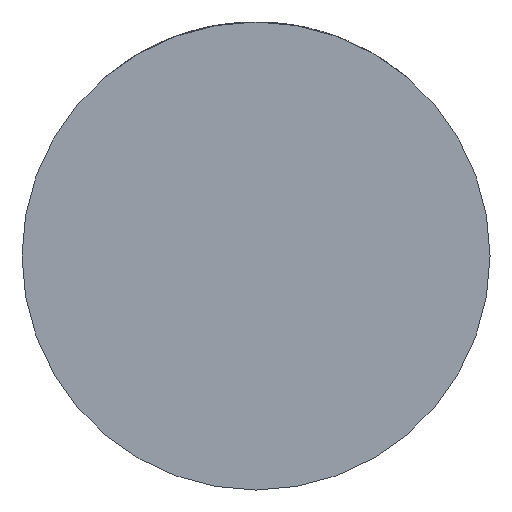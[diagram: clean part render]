
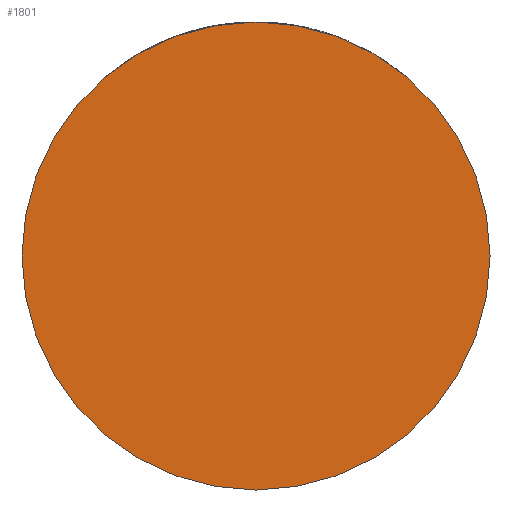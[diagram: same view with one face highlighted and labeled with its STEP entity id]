
A CAD part, front view. The second image highlights one B-rep face of the part: STEP entity #1801.
In plain terms, the highlighted planar face has unit normal (0, -1, 0).
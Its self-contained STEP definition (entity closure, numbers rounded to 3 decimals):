
#163 = PLANE ( 'NONE',  #845 ) ;
#212 = CARTESIAN_POINT ( 'NONE',  ( 0., -28., 0. ) ) ;
#388 = ORIENTED_EDGE ( 'NONE', *, *, #3669, .T. ) ;
#504 = VERTEX_POINT ( 'NONE', #817 ) ;
#570 = DIRECTION ( 'NONE',  ( 0., -1., 0. ) ) ;
#730 = EDGE_CURVE ( 'NONE', #915, #504, #1626, .T. ) ;
#817 = CARTESIAN_POINT ( 'NONE',  ( 32., -28., 0. ) ) ;
#845 = AXIS2_PLACEMENT_3D ( 'NONE', #212, #570, #2223 ) ;
#915 = VERTEX_POINT ( 'NONE', #1855 ) ;
#1626 = CIRCLE ( 'NONE', #2985, 32. ) ;
#1801 = ADVANCED_FACE ( 'NONE', ( #1935 ), #163, .T. ) ;
#1855 = CARTESIAN_POINT ( 'NONE',  ( -32., -28., 0. ) ) ;
#1935 = FACE_OUTER_BOUND ( 'NONE', #3966, .T. ) ;
#2223 = DIRECTION ( 'NONE',  ( 1., 0., 0. ) ) ;
#2284 = ORIENTED_EDGE ( 'NONE', *, *, #730, .T. ) ;
#2424 = AXIS2_PLACEMENT_3D ( 'NONE', #2949, #4343, #2635 ) ;
#2635 = DIRECTION ( 'NONE',  ( 1., 0., 0. ) ) ;
#2852 = CARTESIAN_POINT ( 'NONE',  ( 0., -28., 0. ) ) ;
#2949 = CARTESIAN_POINT ( 'NONE',  ( 0., -28., 0. ) ) ;
#2985 = AXIS2_PLACEMENT_3D ( 'NONE', #2852, #4227, #4205 ) ;
#3669 = EDGE_CURVE ( 'NONE', #504, #915, #3794, .T. ) ;
#3794 = CIRCLE ( 'NONE', #2424, 32. ) ;
#3966 = EDGE_LOOP ( 'NONE', ( #2284, #388 ) ) ;
#4205 = DIRECTION ( 'NONE',  ( 1., 0., 0. ) ) ;
#4227 = DIRECTION ( 'NONE',  ( 0., -1., 0. ) ) ;
#4343 = DIRECTION ( 'NONE',  ( 0., -1., 0. ) ) ;
